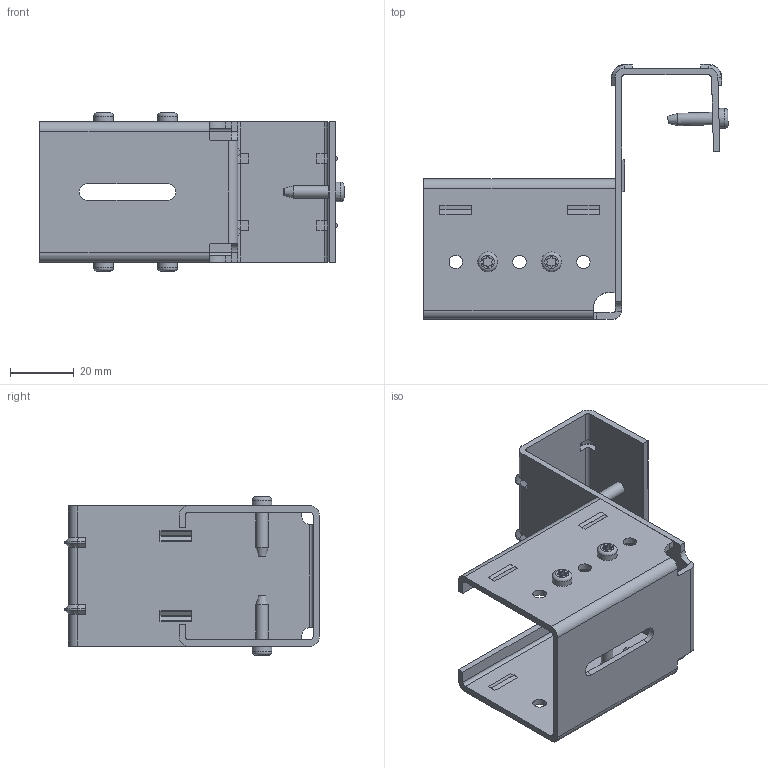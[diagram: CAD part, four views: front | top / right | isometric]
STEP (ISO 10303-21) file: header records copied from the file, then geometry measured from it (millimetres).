
FILE_DESCRIPTION(/* description */ ('STEP AP214'),/* implementation_level */ '2;1');
FILE_NAME(/* name */ '062AHSD28MS01',/* time_stamp */ '2023-08-30T11:49:18+02:00',/* author */ ('License CC BY-ND 4.0'),/* organization */ ('CADENAS'),/* preprocessor_version */ 'ST-DEVELOPER v19.3',/* originating_system */ 'PARTsolutions',/* authorisation */ ' ');
FILE_SCHEMA (('AUTOMOTIVE_DESIGN {1 0 10303 214 3 1 1}'));
Length unit declared in the file: millimetre
Products named in the file (3): 062AHSD28MS01; 062AHSD28MS012; 062AHSD28MS011
Assembly tree (6 placements, depth 2):
  062AHSD28MS01
    062AHSD28MS012  x5
    062AHSD28MS011
Bounding box: 95.39 x 79.92 x 49.6 mm (x, y, z)
Volume: 27760.8 mm3; surface area: 30261.3 mm2
Topology: 6 solids, 6 shells, 393 faces, 1048 edges, 689 vertices
Faces by surface type: plane 212, cylinder 159, cone 13, torus 9
Full cylindrical faces by diameter (mm): 3.9 x5, 4.2 x11, 6.2 x5
Entity records: 8413 total; most frequent: CARTESIAN_POINT 1492, DIRECTION 1440, ORIENTED_EDGE 1400, EDGE_CURVE 700, AXIS2_PLACEMENT_3D 484, LINE 472, VECTOR 472, VERTEX_POINT 468
